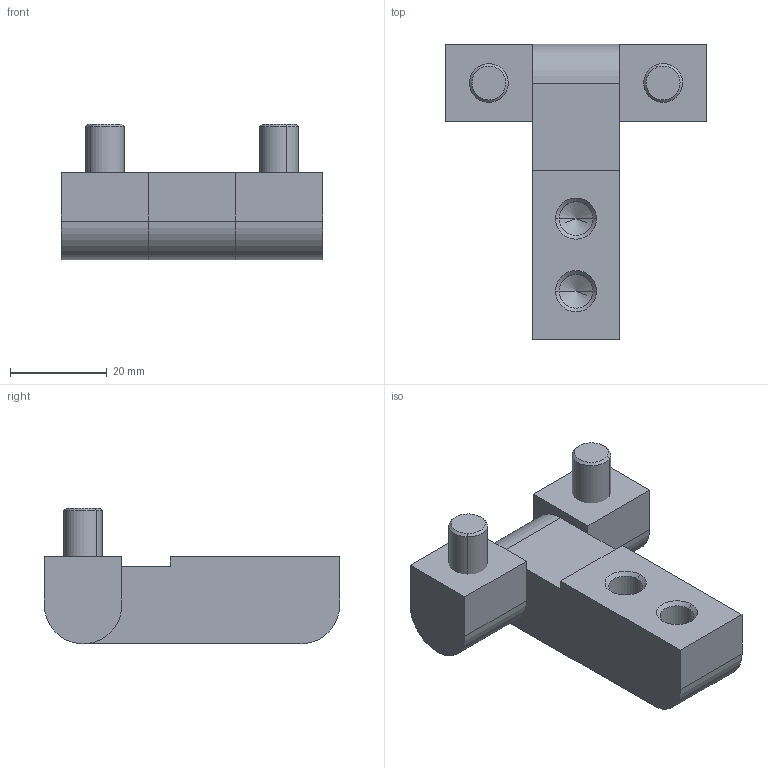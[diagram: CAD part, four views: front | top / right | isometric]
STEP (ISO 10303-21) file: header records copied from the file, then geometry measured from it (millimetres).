
FILE_DESCRIPTION (( 'STEP AP214' ), '1' );
FILE_NAME ('3.ST21.001.STEP', '2010-02-09T15:00:14', ( '£ukaszC' ), ( '' ), 'SwSTEP 2.0', 'SolidWorks 2008', '' );
FILE_SCHEMA (( 'AUTOMOTIVE_DESIGN' ));
Length unit declared in the file: millimetre
Products named in the file (5): 3A.St21.001.02_wiercenie fi6.8; 3A.St21.001.04_Domyœlna; 3A.St21.001.01_Domyœlna; 3A.St21.001.03_Domyœlna; 3.ST21.001
Assembly tree (6 placements, depth 2):
  3.ST21.001
    3A.St21.001.04_Domyœlna  x2
    3A.St21.001.01_Domyœlna
    3A.St21.001.03_Domyœlna
    3A.St21.001.02_wiercenie fi6.8  x2
Bounding box: 54 x 61 x 28 mm (x, y, z)
Volume: 27346.8 mm3; surface area: 11692.9 mm2
Topology: 6 solids, 6 shells, 71 faces, 153 edges, 90 vertices
Faces by surface type: cone 24, cylinder 24, plane 23
Entity records: 1659 total; most frequent: CARTESIAN_POINT 306, DIRECTION 267, ORIENTED_EDGE 210, EDGE_CURVE 105, AXIS2_PLACEMENT_3D 104, VERTEX_POINT 65, VECTOR 59, LINE 59
